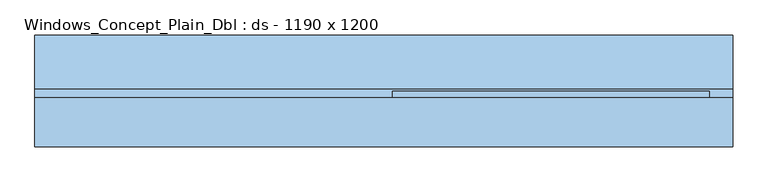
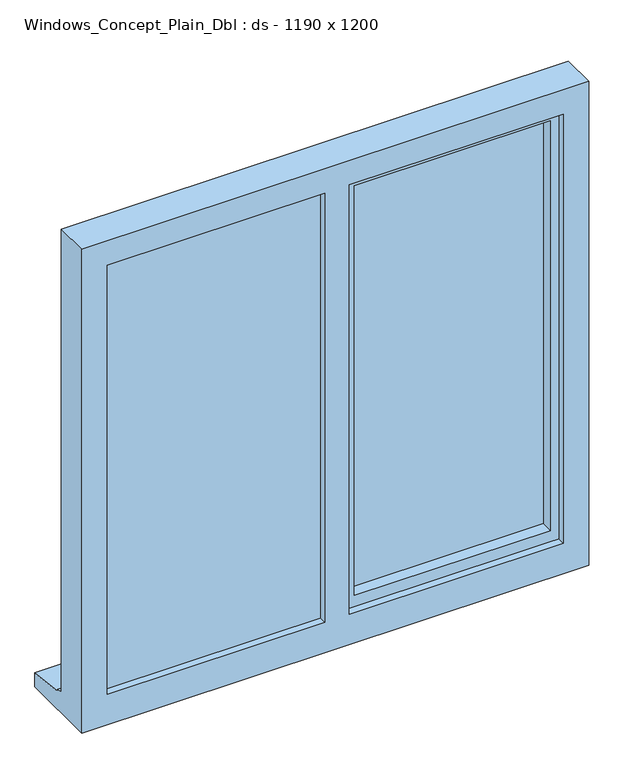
"""IFC4 building model written with IfcOpenShell, lengths in millimetres: window geometry, Windows_Concept_Plain_Dbl : ds - 1190 x 1200."""

from ifc_helpers import new_model, si_unit, frame, origin, place, context, project, spatial, polyline, outline, extrude, faceted_brep, source, transform, mapped, element, save


def windows_concept_plain_dbl_ds_1190_x_1200_79a845ba(model_context):
    return source(origin(), model_context, "Body", "SolidModel", [
        extrude(outline(polyline([(240.0, 52.4565678), (-240.0, 52.4565678), (-240.0, 76.4565678), (240.0, 76.4565678), (240.0, 52.4565678)])), frame((0.0, 0.0, 1003.0), z_axis=(0.0, 0.0, 1.0), x_axis=(1.0, 0.0, 0.0)), (0.0, 0.0, 1.0), 1037.0),
        extrude(outline(polyline([(-840.0, 47.4565678), (-300.0, 47.4565678), (-300.0, 23.4565678), (-840.0, 23.4565678), (-840.0, 47.4565678)])), frame((0.0, 0.0, 973.0), z_axis=(0.0, 0.0, 1.0), x_axis=(1.0, 0.0, 0.0)), (0.0, 0.0, 1.0), 1097.0),
        faceted_brep([(310.0, 5.4565678, 2110.0), (-880.0, 5.4565678, 2110.0), (-880.0, 5.4565678, 910.0), (310.0, 5.4565678, 910.0), (250.0, 5.4565678, 2050.0), (250.0, 5.4565678, 985.0), (-252.0, 5.4565678, 985.0), (-252.0, 5.4565678, 2050.0), (-310.0, 5.4565678, 2050.0), (-310.0, 5.4565678, 985.0), (-820.0, 5.4565678, 985.0), (-820.0, 5.4565678, 2050.0), (-880.0, 88.4565678, 2110.0), (-880.0, 88.4565678, 961.0), (-880.0, 103.4565678, 959.68767), (-880.0, 103.4565678, 954.7449676), (-880.0, 195.9565678, 943.8088847), (-880.0, 195.9565678, 910.0), (310.0, 88.4565678, 2110.0), (310.0, 88.4565678, 961.0), (-840.0, 88.4565678, 2070.0), (-840.0, 88.4565678, 973.0), (-310.0, 88.4565678, 973.0), (-310.0, 88.4565678, 2070.0), (-270.0, 88.4565678, 2070.0), (-270.0, 88.4565678, 973.0), (270.0, 88.4565678, 973.0), (270.0, 88.4565678, 2070.0), (-840.0, 23.4565678, 2070.0), (-840.0, 23.4565678, 973.0), (-300.0, 23.4565678, 2070.0), (-300.0, 23.4565678, 973.0), (-310.0, 23.4565678, 2050.0), (-820.0, 23.4565678, 2050.0), (-820.0, 23.4565678, 985.0), (-310.0, 23.4565678, 985.0), (-270.0, 23.4565678, 2070.0), (270.0, 23.4565678, 2070.0), (270.0, 23.4565678, 973.0), (-270.0, 23.4565678, 973.0), (250.0, 23.4565678, 2050.0), (-252.0, 23.4565678, 2050.0), (-252.0, 23.4565678, 985.0), (250.0, 23.4565678, 985.0), (-310.0, 47.4565678, 2070.0), (-300.0, 47.4565678, 2070.0), (310.0, 195.9565678, 910.0), (310.0, 195.9565678, 943.8088847), (310.0, 103.4565678, 954.7449676), (310.0, 103.4565678, 959.68767), (-300.0, 47.4565678, 973.0), (-310.0, 47.4565678, 973.0)], [[[0, 1, 2, 3], [4, 5, 6, 7], [8, 9, 10, 11]], [[2, 1, 12, 13, 14, 15, 16, 17]], [[13, 12, 18, 19], [20, 21, 22, 23], [24, 25, 26, 27]], [[21, 20, 28, 29]], [[28, 30, 31, 29], [32, 33, 34, 35]], [[36, 37, 38, 39], [40, 41, 42, 43]], [[33, 11, 10, 34]], [[1, 0, 18, 12]], [[28, 20, 23, 44, 45, 30]], [[27, 37, 36, 24]], [[11, 33, 32, 8]], [[40, 4, 7, 41]], [[19, 18, 0, 3, 46, 47, 48, 49]], [[27, 26, 38, 37]], [[4, 40, 43, 5]], [[45, 50, 31, 30]], [[50, 45, 44, 51]], [[51, 44, 23, 22]], [[25, 24, 36, 39]], [[41, 7, 6, 42]], [[8, 32, 35, 9]], [[46, 3, 2, 17]], [[47, 46, 17, 16]], [[48, 47, 16, 15]], [[49, 48, 15, 14]], [[19, 49, 14, 13]], [[22, 21, 29, 31, 50, 51]], [[26, 25, 39, 38]], [[6, 5, 43, 42]], [[35, 34, 10, 9]]]),
        extrude(outline(polyline([(2050.0, -310.0), (2070.0, -310.0), (2070.0, -840.0), (973.0, -840.0), (973.0, -310.0), (993.0, -310.0), (993.0, -820.0), (2050.0, -820.0), (2050.0, -310.0)])), frame((0.0, 47.4565678, 0.0), z_axis=(0.0, 1.0, 0.0), x_axis=(0.0, 0.0, 1.0)), (0.0, 0.0, 1.0), 41.0),
        faceted_brep([(-270.0, 23.4565678, 2070.0), (-270.0, 100.0035732, 2070.0), (-270.0, 100.0035732, 973.0), (-270.0, 23.4565678, 973.0), (-230.0, 52.4565678, 2030.0), (-230.0, 23.4565678, 2030.0), (-230.0, 23.4565678, 1013.0), (-230.0, 52.4565678, 1013.0), (-240.0, 76.4565678, 2040.0), (-240.0, 52.4565678, 2040.0), (-240.0, 52.4565678, 1003.0), (-240.0, 76.4565678, 1003.0), (-230.0, 100.0035732, 2030.0), (-230.0, 76.4565678, 2030.0), (-230.0, 76.4565678, 1013.0), (-230.0, 100.0035732, 1013.0), (270.0, 100.0035732, 973.0), (270.0, 23.4565678, 973.0), (230.0, 23.4565678, 1013.0), (230.0, 52.4565678, 1013.0), (240.0, 52.4565678, 1003.0), (240.0, 76.4565678, 1003.0), (230.0, 76.4565678, 1013.0), (230.0, 100.0035732, 1013.0), (270.0, 100.0035732, 2070.0), (270.0, 23.4565678, 2070.0), (230.0, 23.4565678, 2030.0), (230.0, 52.4565678, 2030.0), (240.0, 52.4565678, 2040.0), (240.0, 76.4565678, 2040.0), (230.0, 76.4565678, 2030.0), (230.0, 100.0035732, 2030.0)], [[[0, 1, 2, 3]], [[4, 5, 6, 7]], [[8, 9, 10, 11]], [[12, 13, 14, 15]], [[3, 2, 16, 17]], [[7, 6, 18, 19]], [[11, 10, 20, 21]], [[15, 14, 22, 23]], [[17, 16, 24, 25]], [[19, 18, 26, 27]], [[21, 20, 28, 29]], [[23, 22, 30, 31]], [[1, 24, 16, 2], [15, 23, 31, 12]], [[25, 24, 1, 0]], [[3, 17, 25, 0], [5, 26, 18, 6]], [[27, 26, 5, 4]], [[9, 28, 20, 10], [7, 19, 27, 4]], [[29, 28, 9, 8]], [[11, 21, 29, 8], [13, 30, 22, 14]], [[31, 30, 13, 12]]]),
    ])


if __name__ == "__main__":
    model = new_model("IFC4")
    model_context = context("Model", 3, world=origin())
    ifc_project = project(units=[si_unit("LENGTHUNIT", "METRE", prefix="MILLI")], contexts=[model_context])
    site = spatial("IfcSite", under=ifc_project)
    building = spatial("IfcBuilding", under=site)
    placement = place(None, origin())
    windows_concept_plain_dbl_ds_1190_x_1200_shape = windows_concept_plain_dbl_ds_1190_x_1200_79a845ba(model_context)
    element("IfcWindow", 1, ObjectType="Windows_Concept_Plain_Dbl : ds - 1190 x 1200", at=placement, inside=building, context=model_context, shape_type="MappedRepresentation", body=[
        mapped(windows_concept_plain_dbl_ds_1190_x_1200_shape, transform((0.0, 0.0, 0.0), x_axis=(1.0, 0.0, 0.0), y_axis=(0.0, 1.0, 0.0), z_axis=(0.0, 0.0, 1.0))),
    ])
    save(model, "model.ifc")
